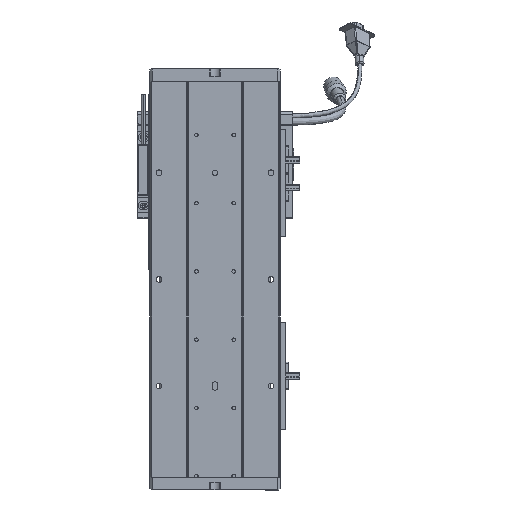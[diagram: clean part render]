
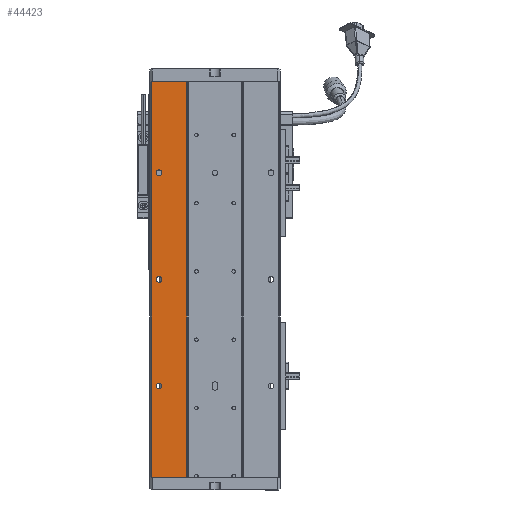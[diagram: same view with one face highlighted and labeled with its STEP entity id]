
A CAD part, front view. The second image highlights one B-rep face of the part: STEP entity #44423.
In plain terms, the highlighted planar face has unit normal (0, -1, 0).
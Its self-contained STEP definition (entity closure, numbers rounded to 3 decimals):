
#989 = EDGE_LOOP ( 'NONE', ( #62294, #34108 ) ) ;
#1025 = CARTESIAN_POINT ( 'NONE',  ( 0., 76.768, 0. ) ) ;
#1103 = CARTESIAN_POINT ( 'NONE',  ( 128.625, 76.768, 371. ) ) ;
#1228 = EDGE_CURVE ( 'NONE', #5656, #43256, #31985, .T. ) ;
#2317 = CARTESIAN_POINT ( 'NONE',  ( 84.971, 76.768, 371. ) ) ;
#2799 = VERTEX_POINT ( 'NONE', #11616 ) ;
#3764 = CARTESIAN_POINT ( 'NONE',  ( 102.625, 76.768, 82.75 ) ) ;
#3775 = CARTESIAN_POINT ( 'NONE',  ( 102.625, 76.768, 282.75 ) ) ;
#3831 = VERTEX_POINT ( 'NONE', #15362 ) ;
#4007 = ORIENTED_EDGE ( 'NONE', *, *, #40909, .T. ) ;
#4457 = CARTESIAN_POINT ( 'NONE',  ( 128.625, 76.768, 371. ) ) ;
#5190 = CARTESIAN_POINT ( 'NONE',  ( 102.625, 76.768, 185.5 ) ) ;
#5656 = VERTEX_POINT ( 'NONE', #26452 ) ;
#7681 = ORIENTED_EDGE ( 'NONE', *, *, #61151, .T. ) ;
#7698 = FACE_BOUND ( 'NONE', #989, .T. ) ;
#8818 = DIRECTION ( 'NONE',  ( 0., 0., 1. ) ) ;
#8856 = ORIENTED_EDGE ( 'NONE', *, *, #59135, .F. ) ;
#9664 = AXIS2_PLACEMENT_3D ( 'NONE', #5190, #40421, #29795 ) ;
#9696 = ORIENTED_EDGE ( 'NONE', *, *, #10850, .F. ) ;
#10409 = CIRCLE ( 'NONE', #33523, 2.75 ) ;
#10850 = EDGE_CURVE ( 'NONE', #32895, #2799, #10941, .T. ) ;
#10941 = LINE ( 'NONE', #1025, #35321 ) ;
#11140 = VECTOR ( 'NONE', #57177, 1000. ) ;
#11616 = CARTESIAN_POINT ( 'NONE',  ( 95.718, 76.768, 0. ) ) ;
#14280 = CARTESIAN_POINT ( 'NONE',  ( 102.625, 76.768, 185.5 ) ) ;
#15362 = CARTESIAN_POINT ( 'NONE',  ( 95.718, 76.768, 371. ) ) ;
#17399 = LINE ( 'NONE', #2317, #11140 ) ;
#17687 = CARTESIAN_POINT ( 'NONE',  ( 102.625, 76.768, 285.5 ) ) ;
#18575 = DIRECTION ( 'NONE',  ( 0., 1., 0. ) ) ;
#18619 = EDGE_CURVE ( 'NONE', #43256, #5656, #38111, .T. ) ;
#19437 = CIRCLE ( 'NONE', #22618, 2.75 ) ;
#19865 = CARTESIAN_POINT ( 'NONE',  ( 102.625, 76.768, 85.5 ) ) ;
#21691 = VERTEX_POINT ( 'NONE', #1103 ) ;
#22618 = AXIS2_PLACEMENT_3D ( 'NONE', #56223, #35681, #55794 ) ;
#24389 = LINE ( 'NONE', #64694, #39417 ) ;
#26452 = CARTESIAN_POINT ( 'NONE',  ( 102.625, 76.768, 182.75 ) ) ;
#27098 = CIRCLE ( 'NONE', #28963, 2.75 ) ;
#28791 = DIRECTION ( 'NONE',  ( 0., 1., 0. ) ) ;
#28963 = AXIS2_PLACEMENT_3D ( 'NONE', #64985, #28791, #8818 ) ;
#29795 = DIRECTION ( 'NONE',  ( 0., 0., 1. ) ) ;
#29996 = VERTEX_POINT ( 'NONE', #3775 ) ;
#30468 = CARTESIAN_POINT ( 'NONE',  ( 102.625, 76.768, 88.25 ) ) ;
#30582 = DIRECTION ( 'NONE',  ( 0., 1., 0. ) ) ;
#30758 = VECTOR ( 'NONE', #45372, 1000. ) ;
#31902 = AXIS2_PLACEMENT_3D ( 'NONE', #60832, #30582, #35879 ) ;
#31985 = CIRCLE ( 'NONE', #9664, 2.75 ) ;
#32111 = FACE_OUTER_BOUND ( 'NONE', #54938, .T. ) ;
#32288 = AXIS2_PLACEMENT_3D ( 'NONE', #14280, #64952, #59856 ) ;
#32895 = VERTEX_POINT ( 'NONE', #55629 ) ;
#33523 = AXIS2_PLACEMENT_3D ( 'NONE', #17687, #18575, #48101 ) ;
#34108 = ORIENTED_EDGE ( 'NONE', *, *, #1228, .T. ) ;
#34430 = DIRECTION ( 'NONE',  ( 0., 0., 1. ) ) ;
#34457 = EDGE_CURVE ( 'NONE', #29996, #61072, #10409, .T. ) ;
#35321 = VECTOR ( 'NONE', #46642, 1000. ) ;
#35563 = CIRCLE ( 'NONE', #38032, 2.75 ) ;
#35681 = DIRECTION ( 'NONE',  ( 0., 1., 0. ) ) ;
#35879 = DIRECTION ( 'NONE',  ( 0., 0., 1. ) ) ;
#37949 = EDGE_LOOP ( 'NONE', ( #7681, #58632 ) ) ;
#38032 = AXIS2_PLACEMENT_3D ( 'NONE', #19865, #55614, #65304 ) ;
#38111 = CIRCLE ( 'NONE', #32288, 2.75 ) ;
#39417 = VECTOR ( 'NONE', #34430, 1000. ) ;
#40421 = DIRECTION ( 'NONE',  ( 0., 1., 0. ) ) ;
#40730 = ORIENTED_EDGE ( 'NONE', *, *, #42336, .T. ) ;
#40909 = EDGE_CURVE ( 'NONE', #51346, #60574, #35563, .T. ) ;
#42336 = EDGE_CURVE ( 'NONE', #21691, #3831, #17399, .T. ) ;
#42550 = EDGE_CURVE ( 'NONE', #21691, #32895, #56809, .T. ) ;
#43256 = VERTEX_POINT ( 'NONE', #50156 ) ;
#44423 = ADVANCED_FACE ( 'NONE', ( #63733, #55807, #7698, #32111 ), #46498, .F. ) ;
#45372 = DIRECTION ( 'NONE',  ( 0., 0., -1. ) ) ;
#46498 = PLANE ( 'NONE',  #31902 ) ;
#46642 = DIRECTION ( 'NONE',  ( -1., 0., 0. ) ) ;
#48101 = DIRECTION ( 'NONE',  ( 0., 0., 1. ) ) ;
#50156 = CARTESIAN_POINT ( 'NONE',  ( 102.625, 76.768, 188.25 ) ) ;
#51346 = VERTEX_POINT ( 'NONE', #3764 ) ;
#53749 = EDGE_LOOP ( 'NONE', ( #60151, #4007 ) ) ;
#54938 = EDGE_LOOP ( 'NONE', ( #9696, #59684, #40730, #8856 ) ) ;
#55471 = EDGE_CURVE ( 'NONE', #60574, #51346, #27098, .T. ) ;
#55614 = DIRECTION ( 'NONE',  ( 0., 1., 0. ) ) ;
#55629 = CARTESIAN_POINT ( 'NONE',  ( 128.625, 76.768, 0. ) ) ;
#55794 = DIRECTION ( 'NONE',  ( 0., 0., 1. ) ) ;
#55807 = FACE_BOUND ( 'NONE', #53749, .T. ) ;
#56223 = CARTESIAN_POINT ( 'NONE',  ( 102.625, 76.768, 285.5 ) ) ;
#56809 = LINE ( 'NONE', #4457, #30758 ) ;
#57177 = DIRECTION ( 'NONE',  ( -1., 0., 0. ) ) ;
#58632 = ORIENTED_EDGE ( 'NONE', *, *, #34457, .T. ) ;
#59135 = EDGE_CURVE ( 'NONE', #2799, #3831, #24389, .T. ) ;
#59684 = ORIENTED_EDGE ( 'NONE', *, *, #42550, .F. ) ;
#59856 = DIRECTION ( 'NONE',  ( 0., 0., 1. ) ) ;
#60151 = ORIENTED_EDGE ( 'NONE', *, *, #55471, .T. ) ;
#60574 = VERTEX_POINT ( 'NONE', #30468 ) ;
#60832 = CARTESIAN_POINT ( 'NONE',  ( 84.971, 76.768, 0. ) ) ;
#61072 = VERTEX_POINT ( 'NONE', #65290 ) ;
#61151 = EDGE_CURVE ( 'NONE', #61072, #29996, #19437, .T. ) ;
#62294 = ORIENTED_EDGE ( 'NONE', *, *, #18619, .T. ) ;
#63733 = FACE_BOUND ( 'NONE', #37949, .T. ) ;
#64694 = CARTESIAN_POINT ( 'NONE',  ( 95.718, 76.768, 371. ) ) ;
#64952 = DIRECTION ( 'NONE',  ( 0., 1., 0. ) ) ;
#64985 = CARTESIAN_POINT ( 'NONE',  ( 102.625, 76.768, 85.5 ) ) ;
#65290 = CARTESIAN_POINT ( 'NONE',  ( 102.625, 76.768, 288.25 ) ) ;
#65304 = DIRECTION ( 'NONE',  ( 0., 0., 1. ) ) ;
